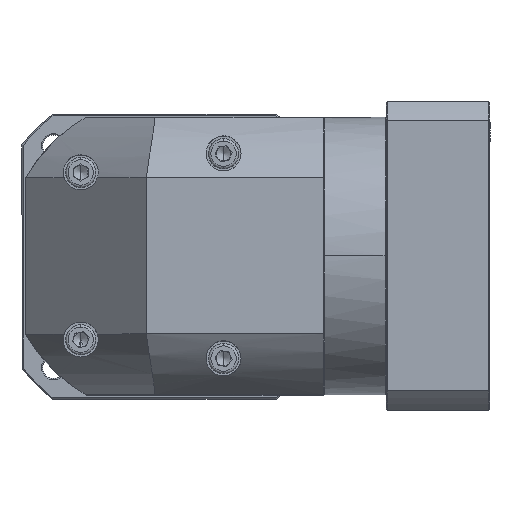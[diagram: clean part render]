
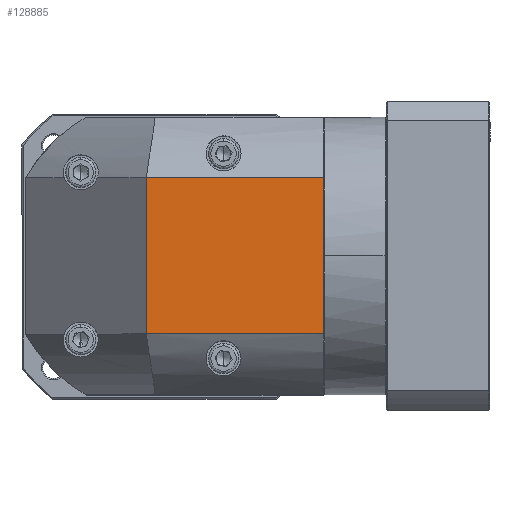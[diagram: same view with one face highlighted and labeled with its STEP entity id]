
A CAD part, top view. The second image highlights one B-rep face of the part: STEP entity #128885.
In plain terms, the highlighted planar face has unit normal (0, 0, 1).
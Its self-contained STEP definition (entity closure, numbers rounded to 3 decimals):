
#3899 = PLANE ( 'NONE',  #107864 ) ;
#10649 = ORIENTED_EDGE ( 'NONE', *, *, #124375, .F. ) ;
#11196 = VECTOR ( 'NONE', #106256, 1000. ) ;
#14644 = DIRECTION ( 'NONE',  ( 0., -1., 0. ) ) ;
#15814 = CARTESIAN_POINT ( 'NONE',  ( 107.693, 10.284, 51.178 ) ) ;
#22643 = CARTESIAN_POINT ( 'NONE',  ( -15.707, 10.284, 51.178 ) ) ;
#30112 = EDGE_CURVE ( 'NONE', #34165, #95871, #48528, .T. ) ;
#34165 = VERTEX_POINT ( 'NONE', #15814 ) ;
#36271 = ORIENTED_EDGE ( 'NONE', *, *, #87756, .F. ) ;
#36373 = LINE ( 'NONE', #110510, #101081 ) ;
#39361 = LINE ( 'NONE', #121443, #58626 ) ;
#48193 = EDGE_LOOP ( 'NONE', ( #36271, #134192, #97089, #10649 ) ) ;
#48528 = LINE ( 'NONE', #22643, #11196 ) ;
#58626 = VECTOR ( 'NONE', #121887, 1000. ) ;
#65309 = VERTEX_POINT ( 'NONE', #84939 ) ;
#75708 = FACE_OUTER_BOUND ( 'NONE', #48193, .T. ) ;
#76846 = EDGE_CURVE ( 'NONE', #95871, #124547, #127834, .T. ) ;
#77137 = DIRECTION ( 'NONE',  ( 0., 0., -1. ) ) ;
#84939 = CARTESIAN_POINT ( 'NONE',  ( 107.693, 75.084, 51.178 ) ) ;
#87756 = EDGE_CURVE ( 'NONE', #124547, #65309, #39361, .T. ) ;
#94186 = CARTESIAN_POINT ( 'NONE',  ( 34.293, 75.084, 51.178 ) ) ;
#95472 = VECTOR ( 'NONE', #118401, 1000. ) ;
#95871 = VERTEX_POINT ( 'NONE', #114799 ) ;
#97089 = ORIENTED_EDGE ( 'NONE', *, *, #30112, .F. ) ;
#101081 = VECTOR ( 'NONE', #101489, 1000. ) ;
#101489 = DIRECTION ( 'NONE',  ( 0., -1., 0. ) ) ;
#106256 = DIRECTION ( 'NONE',  ( -1., 0., 0. ) ) ;
#107864 = AXIS2_PLACEMENT_3D ( 'NONE', #128680, #77137, #14644 ) ;
#110510 = CARTESIAN_POINT ( 'NONE',  ( 107.693, 100.184, 51.178 ) ) ;
#114799 = CARTESIAN_POINT ( 'NONE',  ( 34.293, 10.284, 51.178 ) ) ;
#118401 = DIRECTION ( 'NONE',  ( 0., 1., 0. ) ) ;
#121443 = CARTESIAN_POINT ( 'NONE',  ( -15.707, 75.084, 51.178 ) ) ;
#121887 = DIRECTION ( 'NONE',  ( 1., 0., 0. ) ) ;
#124375 = EDGE_CURVE ( 'NONE', #65309, #34165, #36373, .T. ) ;
#124547 = VERTEX_POINT ( 'NONE', #94186 ) ;
#127834 = LINE ( 'NONE', #127965, #95472 ) ;
#127965 = CARTESIAN_POINT ( 'NONE',  ( 34.293, 100.184, 51.178 ) ) ;
#128680 = CARTESIAN_POINT ( 'NONE',  ( 41.793, 42.684, 51.178 ) ) ;
#128885 = ADVANCED_FACE ( 'NONE', ( #75708 ), #3899, .F. ) ;
#134192 = ORIENTED_EDGE ( 'NONE', *, *, #76846, .F. ) ;
